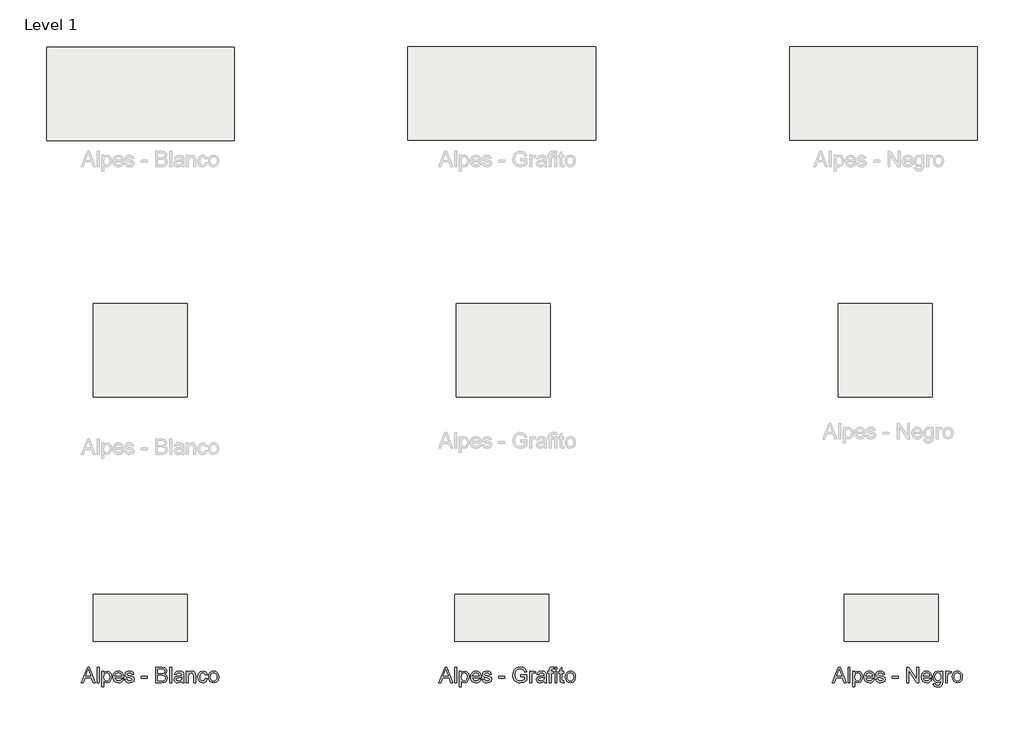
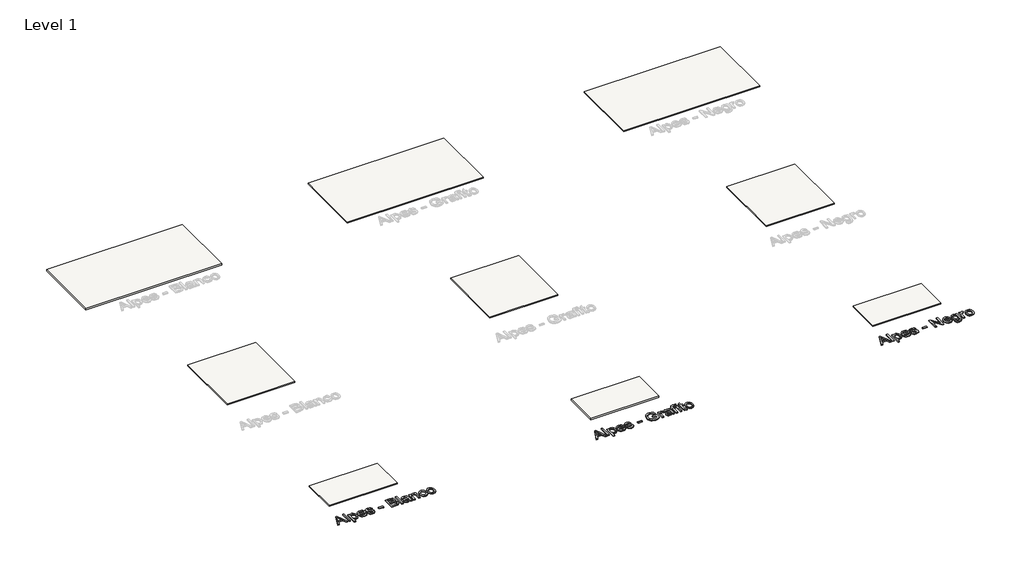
# One storey, part 1 of 3: 9 slabs, 3 proxies.
"""IFC4 building model written with IfcOpenShell, lengths in millimetres."""

from ifc_helpers import new_model, si_unit, frame, origin, origin_with_axes, place, context, project, spatial, polyline, outline, extrude, element, save

model = new_model("IFC4")

# Units and contexts
model_context = context("Model", 3, world=origin())
ifc_project = project(units=[si_unit("LENGTHUNIT", "METRE", prefix="MILLI")], contexts=[model_context])

# Site, building, storey
site = spatial("IfcSite", under=ifc_project)
building = spatial("IfcBuilding", under=site)
storey = spatial("IfcBuildingStorey", under=building, Name="Level 1", Elevation=0.0)

# Proxies
placement = place(None, origin())
element("IfcBuildingElementProxy", 1, Name="24\" Arial", ObjectType="24\" Arial", at=placement, inside=storey, context=model_context, shape_type="SweptSolid", body=[
    extrude(outline(polyline([(-4888.4306518, -112.4410527), (-4849.1277672, -13.9795142), (-4838.6469979, -13.9795142), (-4799.3441133, -112.4410527), (-4812.348921, -112.4410527), (-4823.6229595, -81.6718219), (-4864.1758441, -81.6718219), (-4875.4258441, -112.4410527), (-4888.4306518, -112.4410527)]), holes=[polyline([(-4859.6566133, -69.3641296), (-4828.1181518, -69.3641296), (-4836.9883441, -45.1573988), (-4843.8873826, -26.2872065), (-4850.0171903, -43.0420142), (-4859.6566133, -69.3641296)])]), origin_with_axes(), (0.0, 0.0, 1.0), 8.0),
    extrude(outline(polyline([(-4787.7335364, -112.4410527), (-4787.7335364, -13.9795142), (-4775.4258441, -13.9795142), (-4775.4258441, -112.4410527), (-4787.7335364, -112.4410527)])), origin_with_axes(), (0.0, 0.0, 1.0), 8.0),
    extrude(outline(polyline([(-4756.9643056, -140.1333604), (-4756.9643056, -40.1333604), (-4744.6566133, -40.1333604), (-4744.6566133, -52.2006681), (-4736.1469979, -41.9963411), (-4724.6566133, -38.5948988), (-4709.0556518, -43.3545142), (-4698.8633441, -56.7679758), (-4695.4258441, -75.7343219), (-4699.3080556, -95.6742258), (-4710.5820941, -109.2559565), (-4726.1469979, -113.9795142), (-4736.8561326, -110.8184565), (-4744.6566133, -102.8256681), (-4744.6566133, -140.1333604), (-4756.9643056, -140.1333604)]), holes=[polyline([(-4744.6566133, -76.8641296), (-4743.3254835, -87.8977835), (-4739.3320941, -95.6141296), (-4733.4396662, -100.1573988), (-4726.411421, -101.6718219), (-4719.2689931, -100.1033123), (-4713.2263249, -95.3977835), (-4709.1067335, -87.3989854), (-4707.7335364, -75.9506681), (-4709.0736806, -64.9771104), (-4713.0941133, -57.1525911), (-4718.9775268, -52.4650911), (-4725.9066133, -50.9025911), (-4732.8627431, -52.5642498), (-4738.9715172, -57.5492258), (-4743.2353393, -65.701269), (-4744.6566133, -76.8641296)])]), origin_with_axes(), (0.0, 0.0, 1.0), 8.0),
    extrude(outline(polyline([(-4630.9546903, -90.9025911), (-4618.8873826, -92.4410527), (-4623.2353393, -101.5336008), (-4630.1734403, -108.3304758), (-4639.5454354, -112.5672546), (-4651.1950749, -113.9795142), (-4665.6361806, -111.5426152), (-4676.7479595, -104.2319181), (-4683.833296, -92.5221825), (-4686.1950749, -76.8881681), (-4683.8092576, -60.7283123), (-4676.6518056, -48.6429758), (-4665.6902672, -41.1069181), (-4651.8921903, -38.5948988), (-4638.5238008, -41.1009085), (-4627.8417095, -48.6189373), (-4620.8375028, -60.6802354), (-4618.5027672, -76.8160527), (-4618.5748826, -80.1333604), (-4673.8873826, -80.1333604), (-4671.7569739, -89.3461008), (-4666.8080556, -96.1189373), (-4650.9546903, -101.6718219), (-4638.8873826, -99.0997065), (-4630.9546903, -90.9025911)]), holes=[polyline([(-4673.8873826, -67.8256681), (-4630.8104595, -67.8256681), (-4635.7383441, -56.6718219), (-4642.9138249, -52.3448988), (-4651.9402672, -50.9025911), (-4667.0965172, -55.5059565), (-4673.8873826, -67.8256681)])]), origin_with_axes(), (0.0, 0.0, 1.0), 8.0),
    extrude(outline(polyline([(-4610.8104595, -90.9025911), (-4598.5027672, -89.3641296), (-4592.8056518, -98.498745), (-4579.7527672, -101.6718219), (-4567.2046903, -98.7631681), (-4563.1181518, -91.936245), (-4567.2287287, -86.4073988), (-4579.8969979, -82.8977835), (-4598.4306518, -76.8761488), (-4606.5195941, -69.8448988), (-4609.2719979, -59.9170142), (-4607.0604595, -50.7463411), (-4601.0268056, -43.7391296), (-4593.2022864, -40.0973027), (-4582.6133441, -38.5948988), (-4567.6373826, -41.0107642), (-4558.1181518, -47.5492258), (-4553.8873826, -58.5948988), (-4566.1950749, -60.1333604), (-4570.8224787, -53.342495), (-4581.6518056, -50.9025911), (-4593.4306518, -53.2343219), (-4596.9643056, -58.6670142), (-4595.4979595, -62.248745), (-4590.9066133, -64.9650911), (-4580.3056518, -67.5852835), (-4562.2407479, -73.3785527), (-4553.8513249, -79.9410527), (-4550.8104595, -90.6381681), (-4554.380171, -102.4170142), (-4564.6806518, -110.9626873), (-4579.9210364, -113.9795142), (-4592.3308922, -112.5251873), (-4601.3873826, -108.1622065), (-4607.4330556, -100.9386488), (-4610.8104595, -90.9025911)])), origin_with_axes(), (0.0, 0.0, 1.0), 8.0),
    extrude(outline(polyline([(-4504.6566133, -83.2102835), (-4504.6566133, -70.9025911), (-4466.1950749, -70.9025911), (-4466.1950749, -83.2102835), (-4504.6566133, -83.2102835)])), origin_with_axes(), (0.0, 0.0, 1.0), 8.0),
    extrude(outline(polyline([(-4412.348921, -112.4410527), (-4412.348921, -13.9795142), (-4374.7768056, -13.9795142), (-4356.3753633, -16.8761488), (-4345.5099787, -25.7823988), (-4341.5796903, -38.3785527), (-4344.8849787, -49.8809565), (-4354.8729595, -58.5948988), (-4342.7455556, -67.7775911), (-4338.5027672, -83.0900911), (-4341.3994018, -96.3232642), (-4348.5748826, -105.7463411), (-4359.2840172, -110.7463411), (-4375.0652672, -112.4410527), (-4412.348921, -112.4410527)]), holes=[polyline([(-4400.0412287, -53.9795142), (-4377.5652672, -53.9795142), (-4364.4402672, -52.9218219), (-4356.5436326, -48.3665335), (-4353.8873826, -40.3497065), (-4356.3633441, -32.3208604), (-4363.4546903, -27.5732642), (-4379.2719979, -26.2872065), (-4400.0412287, -26.2872065), (-4400.0412287, -53.9795142)]), polyline([(-4400.0412287, -100.1333604), (-4374.8008441, -100.1333604), (-4365.6662287, -99.6525911), (-4357.9378633, -96.9723027), (-4352.817671, -91.5035527), (-4350.8104595, -83.2102835), (-4353.1662287, -73.6429758), (-4360.7984403, -67.9338411), (-4376.0027672, -66.2872065), (-4400.0412287, -66.2872065), (-4400.0412287, -100.1333604)])]), origin_with_axes(), (0.0, 0.0, 1.0), 8.0),
    extrude(outline(polyline([(-4323.1181518, -112.4410527), (-4323.1181518, -13.9795142), (-4310.8104595, -13.9795142), (-4310.8104595, -112.4410527), (-4323.1181518, -112.4410527)])), origin_with_axes(), (0.0, 0.0, 1.0), 8.0),
    extrude(outline(polyline([(-4246.1950749, -103.2102835), (-4258.130171, -111.5516296), (-4271.3152672, -113.9795142), (-4281.6007239, -112.5191777), (-4289.1878633, -108.1381681), (-4293.8663489, -101.4855238), (-4295.4258441, -93.2102835), (-4293.0700749, -83.4747065), (-4286.880171, -76.4073988), (-4278.2623826, -72.3689373), (-4267.6133441, -70.5179758), (-4246.2671903, -66.2872065), (-4246.1950749, -63.5468219), (-4249.5844979, -54.4602835), (-4263.1902672, -50.9025911), (-4275.6421903, -53.2703796), (-4281.5796903, -61.6718219), (-4293.8873826, -60.1333604), (-4288.5628633, -48.1141296), (-4277.8417095, -41.0708604), (-4261.6037287, -38.5948988), (-4246.6878633, -40.7823988), (-4238.2623826, -46.2751873), (-4234.4883441, -54.6285527), (-4233.8873826, -65.3977835), (-4233.8873826, -80.7102835), (-4233.2623826, -102.092495), (-4230.8104595, -112.4410527), (-4243.1181518, -112.4410527), (-4246.1950749, -103.2102835)]), holes=[polyline([(-4246.1950749, -78.5948988), (-4266.0508441, -82.3689373), (-4276.6397864, -84.3641296), (-4281.4354595, -87.6093219), (-4283.1181518, -92.3448988), (-4279.4522864, -99.0035527), (-4268.6950749, -101.6718219), (-4256.2431518, -98.7271104), (-4248.2143056, -91.5997065), (-4246.2671903, -82.0804758), (-4246.1950749, -78.5948988)])]), origin_with_axes(), (0.0, 0.0, 1.0), 8.0),
    extrude(outline(polyline([(-4216.9643056, -112.4410527), (-4216.9643056, -40.1333604), (-4204.6566133, -40.1333604), (-4204.6566133, -50.2295142), (-4195.2455556, -41.5035527), (-4182.3969979, -38.5948988), (-4170.7744018, -40.9386488), (-4162.8417095, -47.092495), (-4159.1518056, -56.1429758), (-4158.5027672, -68.0420142), (-4158.5027672, -112.4410527), (-4170.8104595, -112.4410527), (-4170.8104595, -69.7006681), (-4172.2287287, -58.811245), (-4177.2407479, -53.0540335), (-4185.6902672, -50.9025911), (-4199.0436326, -55.7343219), (-4203.2533681, -62.7355238), (-4204.6566133, -74.0756681), (-4204.6566133, -112.4410527), (-4216.9643056, -112.4410527)])), origin_with_axes(), (0.0, 0.0, 1.0), 8.0),
    extrude(outline(polyline([(-4095.4258441, -86.2872065), (-4083.1181518, -87.8256681), (-4086.5496422, -98.7721825), (-4092.9979595, -107.0444181), (-4101.8561326, -112.2457402), (-4112.5171903, -113.9795142), (-4125.6091374, -111.560644), (-4135.8465172, -104.3040335), (-4142.4540893, -92.5281921), (-4144.6566133, -76.5516296), (-4140.8945941, -56.1069181), (-4129.4282479, -42.9698988), (-4112.6854595, -38.5948988), (-4102.2858201, -40.0973027), (-4093.9715172, -44.6045142), (-4088.0069739, -51.8761488), (-4084.6566133, -61.6718219), (-4096.9643056, -63.2102835), (-4102.6734403, -53.9915335), (-4112.5893056, -50.9025911), (-4120.5430316, -52.4230238), (-4126.8561326, -56.9843219), (-4130.9757239, -64.8328796), (-4132.348921, -76.2150911), (-4131.005772, -87.7505479), (-4126.9763249, -95.6261488), (-4120.7774066, -100.1604036), (-4112.9258441, -101.6718219), (-4101.3272864, -97.8977835), (-4095.4258441, -86.2872065)])), origin_with_axes(), (0.0, 0.0, 1.0), 8.0),
    extrude(outline(polyline([(-4075.4258441, -76.2872065), (-4072.7635845, -58.8533123), (-4064.7768056, -46.5997065), (-4054.9090172, -40.5961008), (-4043.0941133, -38.5948988), (-4030.1644258, -41.0317979), (-4019.8369018, -48.342495), (-4013.0670701, -59.9500671), (-4010.8104595, -75.2775911), (-4014.8008441, -97.1766296), (-4026.4234403, -109.5684565), (-4043.0941133, -113.9795142), (-4056.1800508, -111.5516296), (-4066.4955556, -104.2679758), (-4073.193272, -92.4170142), (-4075.4258441, -76.2872065)]), holes=[polyline([(-4063.1181518, -76.2631681), (-4061.6938729, -87.4019902), (-4057.4210364, -95.3376873), (-4050.9907479, -100.0882883), (-4043.0941133, -101.6718219), (-4035.2335364, -100.0792738), (-4028.8152672, -95.3016296), (-4024.5424306, -87.2607642), (-4023.1181518, -75.8785527), (-4024.5514451, -65.0642498), (-4028.8513249, -57.2367258), (-4035.2786085, -52.4861248), (-4043.0941133, -50.9025911), (-4050.9907479, -52.4801152), (-4057.4210364, -57.2126873), (-4061.6938729, -65.1303556), (-4063.1181518, -76.2631681)])]), origin_with_axes(), (0.0, 0.0, 1.0), 8.0),
])
element("IfcBuildingElementProxy", 2, Name="24\" Arial", ObjectType="24\" Arial", at=placement, inside=storey, context=model_context, shape_type="SweptSolid", body=[
    extrude(outline(polyline([(-2603.196835, -112.4410527), (-2563.8939504, -13.9795142), (-2553.4131812, -13.9795142), (-2514.1102966, -112.4410527), (-2527.1151042, -112.4410527), (-2538.3891427, -81.6718219), (-2578.9420273, -81.6718219), (-2590.1920273, -112.4410527), (-2603.196835, -112.4410527)]), holes=[polyline([(-2574.4227966, -69.3641296), (-2542.884335, -69.3641296), (-2551.7545273, -45.1573988), (-2558.6535658, -26.2872065), (-2564.7833735, -43.0420142), (-2574.4227966, -69.3641296)])]), origin_with_axes(), (0.0, 0.0, 1.0), 8.0),
    extrude(outline(polyline([(-2502.4997196, -112.4410527), (-2502.4997196, -13.9795142), (-2490.1920273, -13.9795142), (-2490.1920273, -112.4410527), (-2502.4997196, -112.4410527)])), origin_with_axes(), (0.0, 0.0, 1.0), 8.0),
    extrude(outline(polyline([(-2471.7304889, -140.1333604), (-2471.7304889, -40.1333604), (-2459.4227966, -40.1333604), (-2459.4227966, -52.2006681), (-2450.9131812, -41.9963411), (-2439.4227966, -38.5948988), (-2423.821835, -43.3545142), (-2413.6295273, -56.7679758), (-2410.1920273, -75.7343219), (-2414.0742389, -95.6742258), (-2425.3482773, -109.2559565), (-2440.9131812, -113.9795142), (-2451.6223158, -110.8184565), (-2459.4227966, -102.8256681), (-2459.4227966, -140.1333604), (-2471.7304889, -140.1333604)]), holes=[polyline([(-2459.4227966, -76.8641296), (-2458.0916667, -87.8977835), (-2454.0982773, -95.6141296), (-2448.2058494, -100.1573988), (-2441.1776042, -101.6718219), (-2434.0351764, -100.1033123), (-2427.9925081, -95.3977835), (-2423.8729167, -87.3989854), (-2422.4997196, -75.9506681), (-2423.8398639, -64.9771104), (-2427.8602966, -57.1525911), (-2433.74371, -52.4650911), (-2440.6727966, -50.9025911), (-2447.6289264, -52.5642498), (-2453.7377004, -57.5492258), (-2458.0015225, -65.701269), (-2459.4227966, -76.8641296)])]), origin_with_axes(), (0.0, 0.0, 1.0), 8.0),
    extrude(outline(polyline([(-2345.7208735, -90.9025911), (-2333.6535658, -92.4410527), (-2338.0015225, -101.5336008), (-2344.9396235, -108.3304758), (-2354.3116187, -112.5672546), (-2365.9612581, -113.9795142), (-2380.4023639, -111.5426152), (-2391.5141427, -104.2319181), (-2398.5994792, -92.5221825), (-2400.9612581, -76.8881681), (-2398.5754408, -60.7283123), (-2391.4179889, -48.6429758), (-2380.4564504, -41.1069181), (-2366.6583735, -38.5948988), (-2353.2899841, -41.1009085), (-2342.6078927, -48.6189373), (-2335.603686, -60.6802354), (-2333.2689504, -76.8160527), (-2333.3410658, -80.1333604), (-2388.6535658, -80.1333604), (-2386.5231571, -89.3461008), (-2381.5742389, -96.1189373), (-2365.7208735, -101.6718219), (-2353.6535658, -99.0997065), (-2345.7208735, -90.9025911)]), holes=[polyline([(-2388.6535658, -67.8256681), (-2345.5766427, -67.8256681), (-2350.5045273, -56.6718219), (-2357.6800081, -52.3448988), (-2366.7064504, -50.9025911), (-2381.8627004, -55.5059565), (-2388.6535658, -67.8256681)])]), origin_with_axes(), (0.0, 0.0, 1.0), 8.0),
    extrude(outline(polyline([(-2325.5766427, -90.9025911), (-2313.2689504, -89.3641296), (-2307.571835, -98.498745), (-2294.5189504, -101.6718219), (-2281.9708735, -98.7631681), (-2277.884335, -91.936245), (-2281.9949119, -86.4073988), (-2294.6631812, -82.8977835), (-2313.196835, -76.8761488), (-2321.2857773, -69.8448988), (-2324.0381812, -59.9170142), (-2321.8266427, -50.7463411), (-2315.7929889, -43.7391296), (-2307.9684696, -40.0973027), (-2297.3795273, -38.5948988), (-2282.4035658, -41.0107642), (-2272.884335, -47.5492258), (-2268.6535658, -58.5948988), (-2280.9612581, -60.1333604), (-2285.5886619, -53.342495), (-2296.4179889, -50.9025911), (-2308.196835, -53.2343219), (-2311.7304889, -58.6670142), (-2310.2641427, -62.248745), (-2305.6727966, -64.9650911), (-2295.071835, -67.5852835), (-2277.0069312, -73.3785527), (-2268.6175081, -79.9410527), (-2265.5766427, -90.6381681), (-2269.1463542, -102.4170142), (-2279.446835, -110.9626873), (-2294.6872196, -113.9795142), (-2307.0970754, -112.5251873), (-2316.1535658, -108.1622065), (-2322.1992389, -100.9386488), (-2325.5766427, -90.9025911)])), origin_with_axes(), (0.0, 0.0, 1.0), 8.0),
    extrude(outline(polyline([(-2219.4227966, -83.2102835), (-2219.4227966, -70.9025911), (-2180.9612581, -70.9025911), (-2180.9612581, -83.2102835), (-2219.4227966, -83.2102835)])), origin_with_axes(), (0.0, 0.0, 1.0), 8.0),
    extrude(outline(polyline([(-2080.9612581, -73.9795142), (-2080.9612581, -61.6718219), (-2040.9612581, -61.6718219), (-2040.9612581, -98.4747065), (-2060.7088542, -110.0852835), (-2081.5862581, -113.9795142), (-2095.3933494, -112.4320383), (-2107.8723158, -107.7896104), (-2118.2389023, -100.2144902), (-2125.7088542, -89.8689373), (-2130.2250802, -77.4590815), (-2131.7304889, -63.6910527), (-2125.7328927, -36.9242258), (-2118.4221956, -26.1039133), (-2108.4852966, -18.4747065), (-2096.3819312, -13.9494661), (-2082.571835, -12.4410527), (-2063.3170273, -15.9386488), (-2049.8194312, -25.6742258), (-2042.3795273, -41.9602835), (-2053.7256812, -45.1573988), (-2059.3386619, -33.7751873), (-2068.9300081, -27.2126873), (-2082.7641427, -24.748745), (-2098.5213542, -27.404995), (-2109.2425081, -34.3761488), (-2115.5766427, -43.8593219), (-2119.4227966, -63.186245), (-2114.7953927, -84.6405719), (-2101.3338542, -97.4771104), (-2082.571835, -101.6718219), (-2065.7328927, -98.5107642), (-2053.2689504, -91.7679758), (-2053.2689504, -73.9795142), (-2080.9612581, -73.9795142)])), origin_with_axes(), (0.0, 0.0, 1.0), 8.0),
    extrude(outline(polyline([(-2022.4997196, -112.4410527), (-2022.4997196, -40.1333604), (-2011.7304889, -40.1333604), (-2011.7304889, -50.8304758), (-2004.0862581, -40.9747065), (-1996.3939504, -38.5948988), (-1984.0381812, -42.3929758), (-1988.1487581, -53.4266296), (-1996.8026042, -50.9025911), (-2003.7617389, -53.3304758), (-2008.196835, -60.061245), (-2010.1920273, -74.436245), (-2010.1920273, -112.4410527), (-2022.4997196, -112.4410527)])), origin_with_axes(), (0.0, 0.0, 1.0), 8.0),
    extrude(outline(polyline([(-1930.1920273, -103.2102835), (-1942.1271235, -111.5516296), (-1955.3122196, -113.9795142), (-1965.5976764, -112.5191777), (-1973.1848158, -108.1381681), (-1977.8633014, -101.4855238), (-1979.4227966, -93.2102835), (-1977.0670273, -83.4747065), (-1970.8771235, -76.4073988), (-1962.259335, -72.3689373), (-1951.6102966, -70.5179758), (-1930.2641427, -66.2872065), (-1930.1920273, -63.5468219), (-1933.5814504, -54.4602835), (-1947.1872196, -50.9025911), (-1959.6391427, -53.2703796), (-1965.5766427, -61.6718219), (-1977.884335, -60.1333604), (-1972.5598158, -48.1141296), (-1961.8386619, -41.0708604), (-1945.6006812, -38.5948988), (-1930.6848158, -40.7823988), (-1922.259335, -46.2751873), (-1918.4852966, -54.6285527), (-1917.884335, -65.3977835), (-1917.884335, -80.7102835), (-1917.259335, -102.092495), (-1914.8074119, -112.4410527), (-1927.1151042, -112.4410527), (-1930.1920273, -103.2102835)]), holes=[polyline([(-1930.1920273, -78.5948988), (-1950.0477966, -82.3689373), (-1960.6367389, -84.3641296), (-1965.4324119, -87.6093219), (-1967.1151042, -92.3448988), (-1963.4492389, -99.0035527), (-1952.6920273, -101.6718219), (-1940.2401042, -98.7271104), (-1932.2112581, -91.5997065), (-1930.2641427, -82.0804758), (-1930.1920273, -78.5948988)])]), origin_with_axes(), (0.0, 0.0, 1.0), 8.0),
    extrude(outline(polyline([(-1897.884335, -112.4410527), (-1897.884335, -52.4410527), (-1908.6535658, -52.4410527), (-1908.6535658, -40.1333604), (-1897.884335, -40.1333604), (-1897.884335, -32.8497065), (-1896.5862581, -22.5852835), (-1890.2881812, -15.2535527), (-1877.884335, -12.4410527), (-1866.6583735, -13.7872065), (-1868.4612581, -25.3256681), (-1875.5526042, -24.748745), (-1883.3050081, -26.7920142), (-1885.5766427, -34.4122065), (-1885.5766427, -40.1333604), (-1871.7304889, -40.1333604), (-1871.7304889, -52.4410527), (-1885.5766427, -52.4410527), (-1885.5766427, -112.4410527), (-1897.884335, -112.4410527)])), origin_with_axes(), (0.0, 0.0, 1.0), 8.0),
    extrude(outline(polyline([(-1860.9612581, -26.2872065), (-1860.9612581, -13.9795142), (-1848.6535658, -13.9795142), (-1848.6535658, -26.2872065), (-1860.9612581, -26.2872065)])), origin_with_axes(), (0.0, 0.0, 1.0), 8.0),
    extrude(outline(polyline([(-1860.9612581, -112.4410527), (-1860.9612581, -40.1333604), (-1848.6535658, -40.1333604), (-1848.6535658, -112.4410527), (-1860.9612581, -112.4410527)])), origin_with_axes(), (0.0, 0.0, 1.0), 8.0),
    extrude(outline(polyline([(-1804.0381812, -102.1766296), (-1802.4997196, -112.8016296), (-1811.7064504, -113.9795142), (-1822.0189504, -111.936245), (-1827.1631812, -106.5756681), (-1828.6535658, -92.6093219), (-1828.6535658, -52.4410527), (-1837.884335, -52.4410527), (-1837.884335, -40.1333604), (-1828.6535658, -40.1333604), (-1828.6535658, -22.561245), (-1816.3458735, -15.3256681), (-1816.3458735, -40.1333604), (-1804.0381812, -40.1333604), (-1804.0381812, -52.4410527), (-1816.3458735, -52.4410527), (-1816.3458735, -92.248745), (-1815.696835, -98.5948988), (-1813.5934696, -100.842495), (-1809.3987581, -101.6718219), (-1804.0381812, -102.1766296)])), origin_with_axes(), (0.0, 0.0, 1.0), 8.0),
    extrude(outline(polyline([(-1794.8074119, -76.2872065), (-1792.1451523, -58.8533123), (-1784.1583735, -46.5997065), (-1774.290585, -40.5961008), (-1762.4756812, -38.5948988), (-1749.5459937, -41.0317979), (-1739.2184696, -48.342495), (-1732.4486379, -59.9500671), (-1730.1920273, -75.2775911), (-1734.1824119, -97.1766296), (-1745.8050081, -109.5684565), (-1762.4756812, -113.9795142), (-1775.5616187, -111.5516296), (-1785.8771235, -104.2679758), (-1792.5748398, -92.4170142), (-1794.8074119, -76.2872065)]), holes=[polyline([(-1782.4997196, -76.2631681), (-1781.0754408, -87.4019902), (-1776.8026042, -95.3376873), (-1770.3723158, -100.0882883), (-1762.4756812, -101.6718219), (-1754.6151042, -100.0792738), (-1748.196835, -95.3016296), (-1743.9239985, -87.2607642), (-1742.4997196, -75.8785527), (-1743.9330129, -65.0642498), (-1748.2328927, -57.2367258), (-1754.6601764, -52.4861248), (-1762.4756812, -50.9025911), (-1770.3723158, -52.4801152), (-1776.8026042, -57.2126873), (-1781.0754408, -65.1303556), (-1782.4997196, -76.2631681)])]), origin_with_axes(), (0.0, 0.0, 1.0), 8.0),
])
element("IfcBuildingElementProxy", 3, Name="24\" Arial", ObjectType="24\" Arial", at=placement, inside=storey, context=model_context, shape_type="SweptSolid", body=[
    extrude(outline(polyline([(-88.4306518, -112.4410527), (-49.1277672, -13.9795142), (-38.6469979, -13.9795142), (0.6558867, -112.4410527), (-12.348921, -112.4410527), (-23.6229595, -81.6718219), (-64.1758441, -81.6718219), (-75.4258441, -112.4410527), (-88.4306518, -112.4410527)]), holes=[polyline([(-59.6566133, -69.3641296), (-28.1181518, -69.3641296), (-36.9883441, -45.1573988), (-43.8873826, -26.2872065), (-50.0171903, -43.0420142), (-59.6566133, -69.3641296)])]), origin_with_axes(), (0.0, 0.0, 1.0), 8.0),
    extrude(outline(polyline([(12.2664636, -112.4410527), (12.2664636, -13.9795142), (24.5741559, -13.9795142), (24.5741559, -112.4410527), (12.2664636, -112.4410527)])), origin_with_axes(), (0.0, 0.0, 1.0), 8.0),
    extrude(outline(polyline([(43.0356944, -140.1333604), (43.0356944, -40.1333604), (55.3433867, -40.1333604), (55.3433867, -52.2006681), (63.8530021, -41.9963411), (75.3433867, -38.5948988), (90.9443482, -43.3545142), (101.1366559, -56.7679758), (104.5741559, -75.7343219), (100.6919444, -95.6742258), (89.4179059, -109.2559565), (73.8530021, -113.9795142), (63.1438674, -110.8184565), (55.3433867, -102.8256681), (55.3433867, -140.1333604), (43.0356944, -140.1333604)]), holes=[polyline([(55.3433867, -76.8641296), (56.6745165, -87.8977835), (60.6679059, -95.6141296), (66.5603338, -100.1573988), (73.588579, -101.6718219), (80.7310069, -100.1033123), (86.7736751, -95.3977835), (90.8932665, -87.3989854), (92.2664636, -75.9506681), (90.9263194, -64.9771104), (86.9058867, -57.1525911), (81.0224732, -52.4650911), (74.0933867, -50.9025911), (67.1372569, -52.5642498), (61.0284828, -57.5492258), (56.7646607, -65.701269), (55.3433867, -76.8641296)])]), origin_with_axes(), (0.0, 0.0, 1.0), 8.0),
    extrude(outline(polyline([(169.0453097, -90.9025911), (181.1126174, -92.4410527), (176.7646607, -101.5336008), (169.8265597, -108.3304758), (160.4545646, -112.5672546), (148.8049251, -113.9795142), (134.3638194, -111.5426152), (123.2520405, -104.2319181), (116.166704, -92.5221825), (113.8049251, -76.8881681), (116.1907424, -60.7283123), (123.3481944, -48.6429758), (134.3097328, -41.1069181), (148.1078097, -38.5948988), (161.4761992, -41.1009085), (172.1582905, -48.6189373), (179.1624972, -60.6802354), (181.4972328, -76.8160527), (181.4251174, -80.1333604), (126.1126174, -80.1333604), (128.2430261, -89.3461008), (133.1919444, -96.1189373), (149.0453097, -101.6718219), (161.1126174, -99.0997065), (169.0453097, -90.9025911)]), holes=[polyline([(126.1126174, -67.8256681), (169.1895405, -67.8256681), (164.2616559, -56.6718219), (157.0861751, -52.3448988), (148.0597328, -50.9025911), (132.9034828, -55.5059565), (126.1126174, -67.8256681)])]), origin_with_axes(), (0.0, 0.0, 1.0), 8.0),
    extrude(outline(polyline([(189.1895405, -90.9025911), (201.4972328, -89.3641296), (207.1943482, -98.498745), (220.2472328, -101.6718219), (232.7953097, -98.7631681), (236.8818482, -91.936245), (232.7712713, -86.4073988), (220.1030021, -82.8977835), (201.5693482, -76.8761488), (193.4804059, -69.8448988), (190.7280021, -59.9170142), (192.9395405, -50.7463411), (198.9731944, -43.7391296), (206.7977136, -40.0973027), (217.3866559, -38.5948988), (232.3626174, -41.0107642), (241.8818482, -47.5492258), (246.1126174, -58.5948988), (233.8049251, -60.1333604), (229.1775213, -53.342495), (218.3481944, -50.9025911), (206.5693482, -53.2343219), (203.0356944, -58.6670142), (204.5020405, -62.248745), (209.0933867, -64.9650911), (219.6943482, -67.5852835), (237.7592521, -73.3785527), (246.1486751, -79.9410527), (249.1895405, -90.6381681), (245.619829, -102.4170142), (235.3193482, -110.9626873), (220.0789636, -113.9795142), (207.6691078, -112.5251873), (198.6126174, -108.1622065), (192.5669444, -100.9386488), (189.1895405, -90.9025911)])), origin_with_axes(), (0.0, 0.0, 1.0), 8.0),
    extrude(outline(polyline([(295.3433867, -83.2102835), (295.3433867, -70.9025911), (333.8049251, -70.9025911), (333.8049251, -83.2102835), (295.3433867, -83.2102835)])), origin_with_axes(), (0.0, 0.0, 1.0), 8.0),
    extrude(outline(polyline([(387.651079, -112.4410527), (387.651079, -13.9795142), (400.8241559, -13.9795142), (452.2664636, -91.9843219), (452.2664636, -13.9795142), (464.5741559, -13.9795142), (464.5741559, -112.4410527), (451.401079, -112.4410527), (399.9587713, -34.4122065), (399.9587713, -112.4410527), (387.651079, -112.4410527)])), origin_with_axes(), (0.0, 0.0, 1.0), 8.0),
    extrude(outline(polyline([(535.1991559, -90.9025911), (547.2664636, -92.4410527), (542.9185069, -101.5336008), (535.9804059, -108.3304758), (526.6084107, -112.5672546), (514.9587713, -113.9795142), (500.5176655, -111.5426152), (489.4058867, -104.2319181), (482.3205501, -92.5221825), (479.9587713, -76.8881681), (482.3445886, -60.7283123), (489.5020405, -48.6429758), (500.463579, -41.1069181), (514.2616559, -38.5948988), (527.6300453, -41.1009085), (538.3121367, -48.6189373), (545.3163434, -60.6802354), (547.651079, -76.8160527), (547.5789636, -80.1333604), (492.2664636, -80.1333604), (494.3968722, -89.3461008), (499.3457905, -96.1189373), (515.1991559, -101.6718219), (527.2664636, -99.0997065), (535.1991559, -90.9025911)]), holes=[polyline([(492.2664636, -67.8256681), (535.3433867, -67.8256681), (530.4155021, -56.6718219), (523.2400213, -52.3448988), (514.213579, -50.9025911), (499.057329, -55.5059565), (492.2664636, -67.8256681)])]), origin_with_axes(), (0.0, 0.0, 1.0), 8.0),
    extrude(outline(polyline([(556.8818482, -118.5948988), (569.1895405, -120.1333604), (573.1799251, -126.623745), (585.1270405, -129.3641296), (597.7231944, -126.2631681), (603.7328097, -117.561245), (604.5741559, -103.2102835), (595.9082905, -110.1333604), (585.3433867, -112.4410527), (572.6540838, -109.7547546), (563.1919444, -101.6958604), (557.3055261, -89.8809565), (555.3433867, -75.9266296), (558.8650213, -56.8521104), (569.057329, -43.3545142), (584.7424251, -38.5948988), (595.7219924, -41.2872065), (604.5741559, -49.3641296), (604.5741559, -40.1333604), (616.8818482, -40.1333604), (616.8818482, -102.561245), (613.5164636, -126.467495), (602.8554059, -137.5852835), (584.8866559, -141.6718219), (573.4353338, -140.232519), (564.4179059, -135.9146104), (558.6336511, -128.7060767), (556.8818482, -118.5948988)]), holes=[polyline([(567.651079, -75.0852835), (568.9641799, -86.374346), (572.9034828, -94.1357642), (578.8259588, -98.6339613), (586.088579, -100.1333604), (593.2971126, -98.6429758), (599.2496367, -94.1718219), (603.2430261, -86.5095623), (604.5741559, -75.4458604), (603.2039636, -64.7757883), (599.0933867, -57.092495), (593.0537232, -52.4500671), (585.8962713, -50.9025911), (578.8680261, -52.4260286), (572.9755982, -56.9963411), (568.9822088, -64.5654517), (567.651079, -75.0852835)])]), origin_with_axes(), (0.0, 0.0, 1.0), 8.0),
    extrude(outline(polyline([(635.3433867, -112.4410527), (635.3433867, -40.1333604), (646.1126174, -40.1333604), (646.1126174, -50.8304758), (653.7568482, -40.9747065), (661.4491559, -38.5948988), (673.8049251, -42.3929758), (669.6943482, -53.4266296), (661.0405021, -50.9025911), (654.0813674, -53.3304758), (649.6462713, -60.061245), (647.651079, -74.436245), (647.651079, -112.4410527), (635.3433867, -112.4410527)])), origin_with_axes(), (0.0, 0.0, 1.0), 8.0),
    extrude(outline(polyline([(678.4203097, -76.2872065), (681.0825694, -58.8533123), (689.0693482, -46.5997065), (698.9371367, -40.5961008), (710.7520405, -38.5948988), (723.681728, -41.0317979), (734.0092521, -48.342495), (740.7790838, -59.9500671), (743.0356944, -75.2775911), (739.0453097, -97.1766296), (727.4227136, -109.5684565), (710.7520405, -113.9795142), (697.666103, -111.5516296), (687.3505982, -104.2679758), (680.6528819, -92.4170142), (678.4203097, -76.2872065)]), holes=[polyline([(690.7280021, -76.2631681), (692.1522809, -87.4019902), (696.4251174, -95.3376873), (702.8554059, -100.0882883), (710.7520405, -101.6718219), (718.6126174, -100.0792738), (725.0308867, -95.3016296), (729.3037232, -87.2607642), (730.7280021, -75.8785527), (729.2947088, -65.0642498), (724.994829, -57.2367258), (718.5675453, -52.4861248), (710.7520405, -50.9025911), (702.8554059, -52.4801152), (696.4251174, -57.2126873), (692.1522809, -65.1303556), (690.7280021, -76.2631681)])]), origin_with_axes(), (0.0, 0.0, 1.0), 8.0),
])

# Slabs
element("IfcSlab", 4, ObjectType="60x120 Alpes porcelánico_Grafito", at=placement, inside=storey, context=model_context, shape_type="SweptSolid", body=[
    extrude(outline(polyline([(-3910.9306082, 3952.9336241), (-3910.9306082, 3352.9336241), (-5110.9306082, 3352.9336241), (-5110.9306082, 3952.9336241), (-3910.9306082, 3952.9336241)])), frame((0.0, 0.0, -11.3), z_axis=(0.0, 0.0, 1.0), x_axis=(1.0, 0.0, 0.0)), (0.0, 0.0, 1.0), 11.3),
])
element("IfcSlab", 5, ObjectType="60x60 Alpes porcelánico_Blanco", at=placement, inside=storey, context=model_context, shape_type="SweptSolid", body=[
    extrude(outline(polyline([(-4210.9306082, 2312.9336241), (-4210.9306082, 1712.9336241), (-4810.9306082, 1712.9336241), (-4810.9306082, 2312.9336241), (-4210.9306082, 2312.9336241)])), frame((0.0, 0.0, -11.3), z_axis=(0.0, 0.0, 1.0), x_axis=(1.0, 0.0, 0.0)), (0.0, 0.0, 1.0), 11.3),
])
element("IfcSlab", 6, ObjectType="30x60 Alpes porcelánico_Blanco", at=placement, inside=storey, context=model_context, shape_type="SweptSolid", body=[
    extrude(outline(polyline([(-4210.9306082, 452.9336241), (-4210.9306082, 152.9336241), (-4810.9306082, 152.9336241), (-4810.9306082, 452.9336241), (-4210.9306082, 452.9336241)])), frame((0.0, 0.0, -11.3), z_axis=(0.0, 0.0, 1.0), x_axis=(1.0, 0.0, 0.0)), (0.0, 0.0, 1.0), 11.3),
])
element("IfcSlab", 7, ObjectType="60x60 Alpes porcelánico_Grafito", at=placement, inside=storey, context=model_context, shape_type="SweptSolid", body=[
    extrude(outline(polyline([(-1890.9306082, 2312.9336241), (-1890.9306082, 1712.9336241), (-2490.9306082, 1712.9336241), (-2490.9306082, 2312.9336241), (-1890.9306082, 2312.9336241)])), frame((0.0, 0.0, -11.3), z_axis=(0.0, 0.0, 1.0), x_axis=(1.0, 0.0, 0.0)), (0.0, 0.0, 1.0), 11.3),
])
element("IfcSlab", 8, ObjectType="30x60  Alpes porcelánico_Grafito", at=placement, inside=storey, context=model_context, shape_type="SweptSolid", body=[
    extrude(outline(polyline([(-1900.6967914, 452.9336241), (-1900.6967914, 152.9336241), (-2500.6967914, 152.9336241), (-2500.6967914, 452.9336241), (-1900.6967914, 452.9336241)])), frame((0.0, 0.0, -11.3), z_axis=(0.0, 0.0, 1.0), x_axis=(1.0, 0.0, 0.0)), (0.0, 0.0, 1.0), 11.3),
])
element("IfcSlab", 9, ObjectType="60x120 Alpes porcelánico_Grafito", at=placement, inside=storey, context=model_context, shape_type="SweptSolid", body=[
    extrude(outline(polyline([(-1600.6967914, 3956.1521852), (-1600.6967914, 3356.1521852), (-2800.6967914, 3356.1521852), (-2800.6967914, 3956.1521852), (-1600.6967914, 3956.1521852)])), frame((0.0, 0.0, -11.3), z_axis=(0.0, 0.0, 1.0), x_axis=(1.0, 0.0, 0.0)), (0.0, 0.0, 1.0), 11.3),
])
element("IfcSlab", 10, ObjectType="60x120 Alpes porcelánico_Negro", at=placement, inside=storey, context=model_context, shape_type="SweptSolid", body=[
    extrude(outline(polyline([(839.3032086, 3956.1521852), (839.3032086, 3356.1521852), (-360.6967914, 3356.1521852), (-360.6967914, 3956.1521852), (839.3032086, 3956.1521852)])), frame((0.0, 0.0, -11.3), z_axis=(0.0, 0.0, 1.0), x_axis=(1.0, 0.0, 0.0)), (0.0, 0.0, 1.0), 11.3),
])
element("IfcSlab", 11, ObjectType="60x60 Alpes porcelánico_Negro", at=placement, inside=storey, context=model_context, shape_type="SweptSolid", body=[
    extrude(outline(polyline([(549.0693918, 2312.9336241), (549.0693918, 1712.9336241), (-50.9306082, 1712.9336241), (-50.9306082, 2312.9336241), (549.0693918, 2312.9336241)])), frame((0.0, 0.0, -11.3), z_axis=(0.0, 0.0, 1.0), x_axis=(1.0, 0.0, 0.0)), (0.0, 0.0, 1.0), 11.3),
])
element("IfcSlab", 12, ObjectType="30x60  Alpes porcelánico_Negro", at=placement, inside=storey, context=model_context, shape_type="SweptSolid", body=[
    extrude(outline(polyline([(589.0693918, 452.9336241), (589.0693918, 152.9336241), (-10.9306082, 152.9336241), (-10.9306082, 452.9336241), (589.0693918, 452.9336241)])), frame((0.0, 0.0, -11.3), z_axis=(0.0, 0.0, 1.0), x_axis=(1.0, 0.0, 0.0)), (0.0, 0.0, 1.0), 11.3),
])

save(model, "model.ifc")
